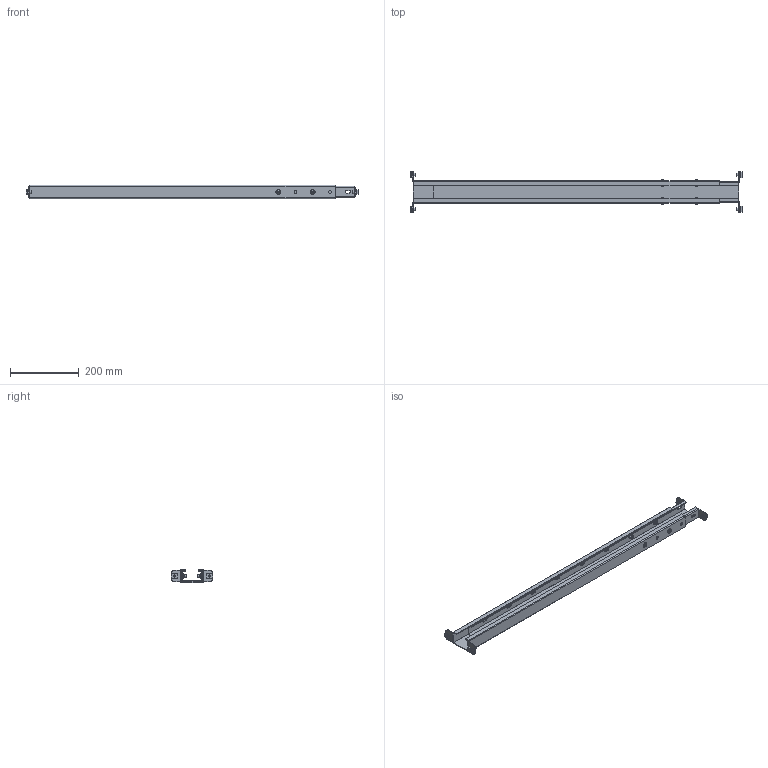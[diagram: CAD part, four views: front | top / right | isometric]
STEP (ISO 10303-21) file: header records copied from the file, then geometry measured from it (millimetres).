
FILE_DESCRIPTION(/* description */ ('Unknown'),/* implementation_level */ '2;1');
FILE_NAME(/* name */ '127.00637_01-950mm',/* time_stamp */ '2025-03-27T11:17:22+01:00',/* author */ ('Unknown'),/* organization */ ('Unknown'),/* preprocessor_version */ 'ST-DEVELOPER v20',/* originating_system */ 'Solid Edge',/* authorisation */ 'Unknown');
FILE_SCHEMA (('AUTOMOTIVE_DESIGN {1 0 10303 214 3 1 1}'));
Length unit declared in the file: millimetre
Products named in the file (9): 127.00637; 096611~1; 096612~1; Sechskantmutter M6 DIN 934; Scheibe Ø6,4 DIN 125; 142.00081; 142.00018; 126.00495; Halbrundkopfschraube mit Innensechskant und Bund M6x16 ISO 7380-2
Assembly tree (26 placements, depth 2):
  127.00637
    096611~1
    096612~1
    Sechskantmutter M6 DIN 934  x4
    Scheibe Ø6,4 DIN 125  x4
    142.00081  x4
    142.00018  x4
    126.00495  x4
    Halbrundkopfschraube mit Innensechskant und Bund M6x16 ISO 7380-2  x4
Bounding box: 963.8 x 120 x 40 mm (x, y, z)
Volume: 677424.3 mm3; surface area: 558094.2 mm2
Topology: 26 solids, 26 shells, 568 faces, 1426 edges, 930 vertices
Faces by surface type: plane 268, cylinder 192, torus 72, bspline 24, cone 8, sphere 4
Full cylindrical faces by diameter (mm): 4.917 x4, 6 x12, 6.4 x8, 8.5 x12, 10 x4, 11 x4, 12 x4, 13.6 x4
Entity records: 9317 total; most frequent: CARTESIAN_POINT 2084, DIRECTION 1396, ORIENTED_EDGE 1368, EDGE_CURVE 684, AXIS2_PLACEMENT_3D 491, VERTEX_POINT 468, LINE 414, VECTOR 414
